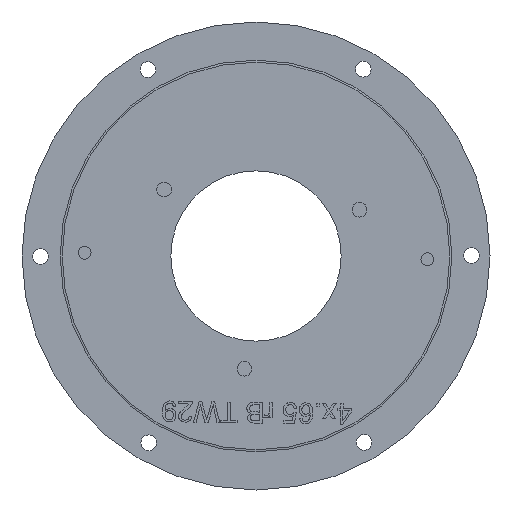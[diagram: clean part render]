
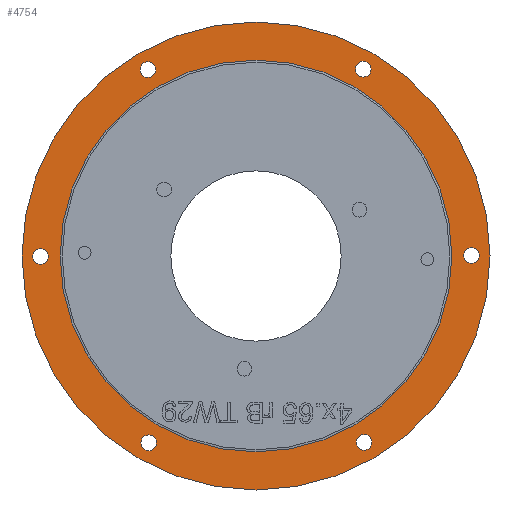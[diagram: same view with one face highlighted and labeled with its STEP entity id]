
A CAD part, front view. The second image highlights one B-rep face of the part: STEP entity #4754.
In plain terms, the highlighted planar face has unit normal (0, -1, 0).
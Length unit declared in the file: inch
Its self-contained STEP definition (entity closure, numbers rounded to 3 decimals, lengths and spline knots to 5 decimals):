
#53=FACE_BOUND('',#1106,.T.);
#54=FACE_BOUND('',#1107,.T.);
#55=FACE_BOUND('',#1108,.T.);
#56=FACE_BOUND('',#1109,.T.);
#57=FACE_BOUND('',#1110,.T.);
#58=FACE_BOUND('',#1111,.T.);
#59=FACE_BOUND('',#1112,.T.);
#552=PLANE('',#4932);
#809=FACE_OUTER_BOUND('',#1105,.T.);
#1105=EDGE_LOOP('',(#4444));
#1106=EDGE_LOOP('',(#4445));
#1107=EDGE_LOOP('',(#4446));
#1108=EDGE_LOOP('',(#4447));
#1109=EDGE_LOOP('',(#4448));
#1110=EDGE_LOOP('',(#4449));
#1111=EDGE_LOOP('',(#4450));
#1112=EDGE_LOOP('',(#4451));
#1909=CIRCLE('',#4885,0.08);
#1920=CIRCLE('',#4900,0.08);
#1923=CIRCLE('',#4906,0.08);
#1926=CIRCLE('',#4912,0.08);
#1929=CIRCLE('',#4918,0.08);
#1932=CIRCLE('',#4924,0.08);
#1935=CIRCLE('',#4930,2.);
#1937=CIRCLE('',#4933,2.39);
#2373=VERTEX_POINT('',#9184);
#2384=VERTEX_POINT('',#9212);
#2387=VERTEX_POINT('',#9223);
#2390=VERTEX_POINT('',#9234);
#2393=VERTEX_POINT('',#9245);
#2396=VERTEX_POINT('',#9256);
#2400=VERTEX_POINT('',#9268);
#2401=VERTEX_POINT('',#9273);
#3049=EDGE_CURVE('',#2373,#2373,#1909,.T.);
#3062=EDGE_CURVE('',#2384,#2384,#1920,.T.);
#3067=EDGE_CURVE('',#2387,#2387,#1923,.T.);
#3072=EDGE_CURVE('',#2390,#2390,#1926,.T.);
#3077=EDGE_CURVE('',#2393,#2393,#1929,.T.);
#3082=EDGE_CURVE('',#2396,#2396,#1932,.T.);
#3087=EDGE_CURVE('',#2400,#2400,#1935,.T.);
#3089=EDGE_CURVE('',#2401,#2401,#1937,.T.);
#4444=ORIENTED_EDGE('',*,*,#3089,.F.);
#4445=ORIENTED_EDGE('',*,*,#3049,.T.);
#4446=ORIENTED_EDGE('',*,*,#3062,.T.);
#4447=ORIENTED_EDGE('',*,*,#3067,.T.);
#4448=ORIENTED_EDGE('',*,*,#3072,.T.);
#4449=ORIENTED_EDGE('',*,*,#3077,.T.);
#4450=ORIENTED_EDGE('',*,*,#3082,.T.);
#4451=ORIENTED_EDGE('',*,*,#3087,.T.);
#4754=ADVANCED_FACE('',(#809,#53,#54,#55,#56,#57,#58,#59),#552,.T.);
#4885=AXIS2_PLACEMENT_3D('',#9186,#5566,#5567);
#4900=AXIS2_PLACEMENT_3D('',#9214,#5598,#5599);
#4906=AXIS2_PLACEMENT_3D('',#9225,#5612,#5613);
#4912=AXIS2_PLACEMENT_3D('',#9236,#5626,#5627);
#4918=AXIS2_PLACEMENT_3D('',#9247,#5640,#5641);
#4924=AXIS2_PLACEMENT_3D('',#9258,#5654,#5655);
#4930=AXIS2_PLACEMENT_3D('',#9270,#5668,#5669);
#4932=AXIS2_PLACEMENT_3D('',#9272,#5672,#5673);
#4933=AXIS2_PLACEMENT_3D('',#9274,#5674,#5675);
#5566=DIRECTION('center_axis',(0.,1.,0.));
#5567=DIRECTION('ref_axis',(0.5,0.,0.866));
#5598=DIRECTION('center_axis',(0.,1.,0.));
#5599=DIRECTION('ref_axis',(-0.5,0.,0.866));
#5612=DIRECTION('center_axis',(0.,1.,0.));
#5613=DIRECTION('ref_axis',(-1.,0.,0.));
#5626=DIRECTION('center_axis',(0.,1.,0.));
#5627=DIRECTION('ref_axis',(-0.5,0.,-0.866));
#5640=DIRECTION('center_axis',(0.,1.,0.));
#5641=DIRECTION('ref_axis',(0.5,0.,-0.866));
#5654=DIRECTION('center_axis',(0.,1.,0.));
#5655=DIRECTION('ref_axis',(1.,0.,0.));
#5668=DIRECTION('center_axis',(0.,1.,0.));
#5669=DIRECTION('ref_axis',(1.,0.,0.));
#5672=DIRECTION('center_axis',(0.,-1.,0.));
#5673=DIRECTION('ref_axis',(0.,0.,-1.));
#5674=DIRECTION('center_axis',(0.,1.,0.));
#5675=DIRECTION('ref_axis',(-1.,0.,0.));
#9184=CARTESIAN_POINT('',(-1.13573,0.4,-1.977));
#9186=CARTESIAN_POINT('Origin',(-1.09573,0.4,-1.90772));
#9212=CARTESIAN_POINT('',(1.14427,0.4,-1.97207));
#9214=CARTESIAN_POINT('Origin',(1.10427,0.4,-1.90279));
#9223=CARTESIAN_POINT('',(2.27999,0.4,0.00493));
#9225=CARTESIAN_POINT('Origin',(2.19999,0.4,0.00493));
#9234=CARTESIAN_POINT('',(1.13573,0.4,1.977));
#9236=CARTESIAN_POINT('Origin',(1.09573,0.4,1.90772));
#9245=CARTESIAN_POINT('',(-1.14427,0.4,1.97207));
#9247=CARTESIAN_POINT('Origin',(-1.10427,0.4,1.90279));
#9256=CARTESIAN_POINT('',(-2.27999,0.4,-0.00493));
#9258=CARTESIAN_POINT('Origin',(-2.19999,0.4,-0.00493));
#9268=CARTESIAN_POINT('',(2.,0.4,0.));
#9270=CARTESIAN_POINT('Origin',(0.,0.4,0.));
#9272=CARTESIAN_POINT('Origin',(-2.39,0.4,0.));
#9273=CARTESIAN_POINT('',(2.39,0.4,0.));
#9274=CARTESIAN_POINT('Origin',(0.,0.4,0.));
